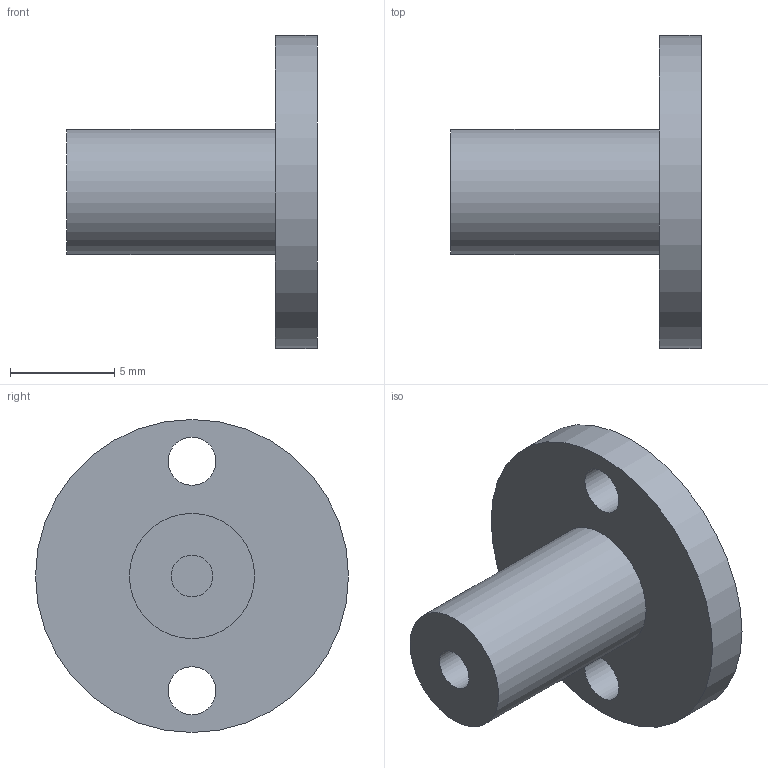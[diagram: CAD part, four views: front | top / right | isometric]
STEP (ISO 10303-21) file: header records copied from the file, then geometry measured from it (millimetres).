
FILE_DESCRIPTION(('Open CASCADE Model'),'2;1');
FILE_NAME('Open CASCADE Shape Model','2026-11-24T19:57:39',('Author'),( 'Open CASCADE'),'Open CASCADE STEP processor 7.8','Open CASCADE 7.8' ,'Unknown');
FILE_SCHEMA(('AUTOMOTIVE_DESIGN { 1 0 10303 214 1 1 1 1 }'));
Length unit declared in the file: millimetre
Products named in the file (1): Open CASCADE STEP translator 7.8 100
Bounding box: 12 x 15 x 15 mm (x, y, z)
Volume: 603.8 mm3; surface area: 679.9 mm2
Topology: 1 solids, 1 shells, 9 faces, 15 edges, 10 vertices
Faces by surface type: cylinder 5, plane 4
Full cylindrical faces by diameter (mm): 2 x1, 2.3 x2, 6 x1, 15 x1
Entity records: 427 total; most frequent: CARTESIAN_POINT 70, DIRECTION 70, ORIENTED_EDGE 30, PCURVE 30, DEFINITIONAL_REPRESENTATION 30, AXIS2_PLACEMENT_3D 20, CIRCLE 20, LINE 20
